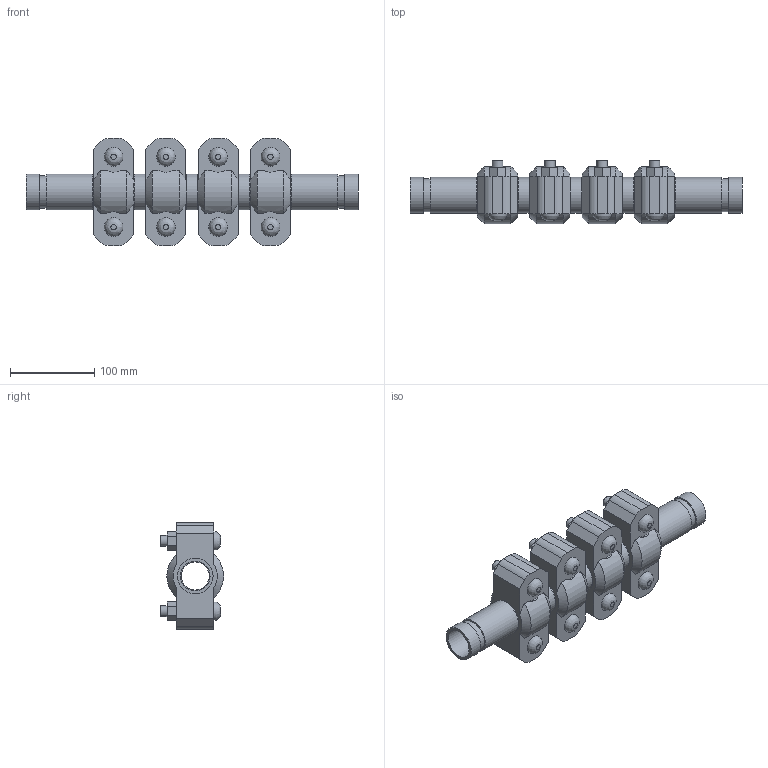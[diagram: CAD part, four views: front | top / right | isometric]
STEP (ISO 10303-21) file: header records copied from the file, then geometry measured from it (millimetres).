
FILE_DESCRIPTION(/* description */ ('VIC EXPANSION JOINT 4 COUPLINGS EXPANDED STYLE 155 (OGS)','CAx-IF Rec.Pracs.---Representation and Presentation of Product Manufacturing Information (PMI)---4.0---2014-10-13'),/* implementation_level */ '2;1');
FILE_NAME(/* name */ 'C:\Users\kkamble\AppData\Roaming\Autodesk\ApplicationPlugins\Victaulic.Temp\A310\Victaulic_IPS_Expansion Joint_Expanded_4 Couplings_Style 155 (OGS)_1.25 (32).stp',/* time_stamp */ '2021-06-27T00:00:03+02:00',/* author */ ('kkamble'),/* organization */ ('Victaulic'),/* preprocessor_version */ 'ST-DEVELOPER v17.2',/* originating_system */ 'Autodesk Inventor 2019',/* authorisation */ '');
FILE_SCHEMA (('AP242_MANAGED_MODEL_BASED_3D_ENGINEERING_MIM_LF { 1 0 10303 442 1 1 4 }'));
Length unit declared in the file: inch
Products named in the file (4): 155-01.25; Nipple-01.25; Nipple-01.25_1; 077-01.25
Assembly tree (9 placements, depth 2):
  155-01.25
    Nipple-01.25  x2
    Nipple-01.25_1  x3
    077-01.25  x4
Bounding box: 393.45 x 74.93 x 127 mm (x, y, z)
Volume: 1075317.8 mm3; surface area: 269492.9 mm2
Topology: 9 solids, 17 shells, 304 faces, 730 edges, 512 vertices
Faces by surface type: plane 174, cylinder 106, cone 16, bspline 8
Full cylindrical faces by diameter (mm): 12.7 x16, 14.605 x8, 33.274 x4, 35.052 x5, 38.989 x10, 42.164 x23
Entity records: 2953 total; most frequent: CARTESIAN_POINT 553, DIRECTION 481, ORIENTED_EDGE 410, EDGE_CURVE 205, AXIS2_PLACEMENT_3D 192, VERTEX_POINT 146, EDGE_LOOP 111, LINE 97
